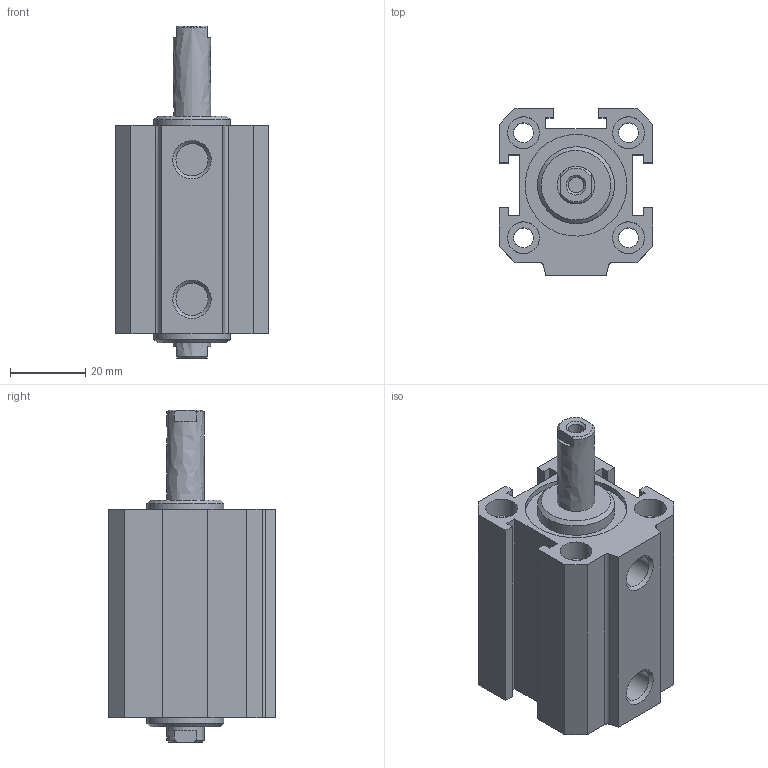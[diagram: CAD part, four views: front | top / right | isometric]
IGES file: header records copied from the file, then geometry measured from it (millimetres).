
Global section: file name: 1514_25_0020; native system: Autodesk Inventor 2014; preprocessor: unknown; author: A. Manieri; date: 20160824.111950; units: millimetre
Bounding box: 41 x 44.5 x 88.5 mm (x, y, z)
Volume: 68443.2 mm3; surface area: 28891.7 mm2
Topology: 2 solids, 2 shells, 106 faces, 280 edges, 198 vertices
Faces by surface type: bspline 106
